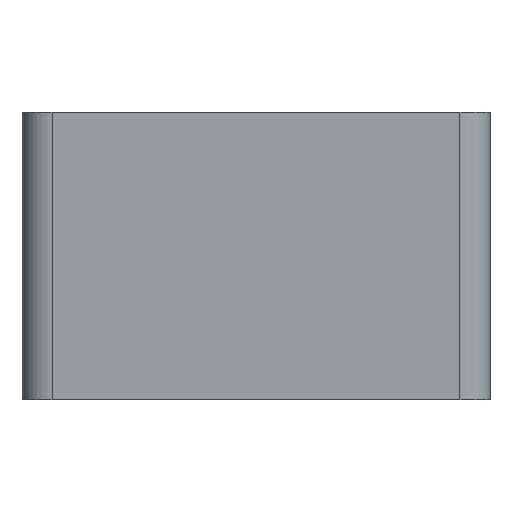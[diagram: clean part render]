
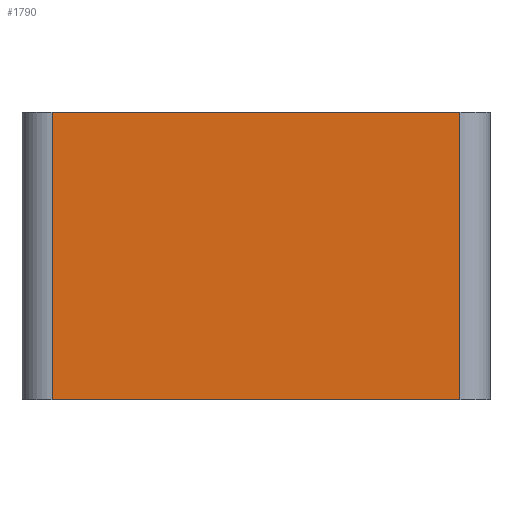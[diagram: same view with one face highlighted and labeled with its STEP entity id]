
A CAD part, front view. The second image highlights one B-rep face of the part: STEP entity #1790.
In plain terms, the highlighted planar face has unit normal (0, -1, 0).
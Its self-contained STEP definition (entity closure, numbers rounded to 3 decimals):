
#44 = PLANE('',#45);
#45 = AXIS2_PLACEMENT_3D('',#46,#47,#48);
#46 = CARTESIAN_POINT('',(-9.35,-9.35,22.));
#47 = DIRECTION('',(0.,0.,1.));
#48 = DIRECTION('',(1.,0.,0.));
#72 = CYLINDRICAL_SURFACE('',#73,1.2);
#73 = AXIS2_PLACEMENT_3D('',#74,#75,#76);
#74 = CARTESIAN_POINT('',(-8.15,-8.15,10.5));
#75 = DIRECTION('',(0.,0.,1.));
#76 = DIRECTION('',(-1.,-0.,0.));
#100 = PLANE('',#101);
#101 = AXIS2_PLACEMENT_3D('',#102,#103,#104);
#102 = CARTESIAN_POINT('',(-9.35,-9.35,10.5));
#103 = DIRECTION('',(0.,0.,1.));
#104 = DIRECTION('',(1.,0.,0.));
#249 = VERTEX_POINT('',#250);
#250 = CARTESIAN_POINT('',(-8.15,-9.35,22.));
#272 = EDGE_CURVE('',#249,#273,#275,.T.);
#273 = VERTEX_POINT('',#274);
#274 = CARTESIAN_POINT('',(8.15,-9.35,22.));
#275 = SURFACE_CURVE('',#276,(#280,#287),.PCURVE_S1.);
#276 = LINE('',#277,#278);
#277 = CARTESIAN_POINT('',(-9.35,-9.35,22.));
#278 = VECTOR('',#279,1.);
#279 = DIRECTION('',(1.,0.,0.));
#280 = PCURVE('',#44,#281);
#281 = DEFINITIONAL_REPRESENTATION('',(#282),#286);
#282 = LINE('',#283,#284);
#283 = CARTESIAN_POINT('',(0.,0.));
#284 = VECTOR('',#285,1.);
#285 = DIRECTION('',(1.,0.));
#286 = ( GEOMETRIC_REPRESENTATION_CONTEXT(2) 
PARAMETRIC_REPRESENTATION_CONTEXT() REPRESENTATION_CONTEXT('2D SPACE',''
  ) );
#287 = PCURVE('',#288,#293);
#288 = PLANE('',#289);
#289 = AXIS2_PLACEMENT_3D('',#290,#291,#292);
#290 = CARTESIAN_POINT('',(-9.35,-9.35,10.5));
#291 = DIRECTION('',(0.,1.,0.));
#292 = DIRECTION('',(0.,0.,1.));
#293 = DEFINITIONAL_REPRESENTATION('',(#294),#298);
#294 = LINE('',#295,#296);
#295 = CARTESIAN_POINT('',(11.5,0.));
#296 = VECTOR('',#297,1.);
#297 = DIRECTION('',(0.,1.));
#298 = ( GEOMETRIC_REPRESENTATION_CONTEXT(2) 
PARAMETRIC_REPRESENTATION_CONTEXT() REPRESENTATION_CONTEXT('2D SPACE',''
  ) );
#321 = CYLINDRICAL_SURFACE('',#322,1.2);
#322 = AXIS2_PLACEMENT_3D('',#323,#324,#325);
#323 = CARTESIAN_POINT('',(8.15,-8.15,10.5));
#324 = DIRECTION('',(0.,0.,1.));
#325 = DIRECTION('',(1.,0.,-0.));
#1003 = VERTEX_POINT('',#1004);
#1004 = CARTESIAN_POINT('',(-8.15,-9.35,10.5));
#1026 = EDGE_CURVE('',#1003,#1027,#1029,.T.);
#1027 = VERTEX_POINT('',#1028);
#1028 = CARTESIAN_POINT('',(8.15,-9.35,10.5));
#1029 = SURFACE_CURVE('',#1030,(#1034,#1041),.PCURVE_S1.);
#1030 = LINE('',#1031,#1032);
#1031 = CARTESIAN_POINT('',(-9.35,-9.35,10.5));
#1032 = VECTOR('',#1033,1.);
#1033 = DIRECTION('',(1.,0.,0.));
#1034 = PCURVE('',#100,#1035);
#1035 = DEFINITIONAL_REPRESENTATION('',(#1036),#1040);
#1036 = LINE('',#1037,#1038);
#1037 = CARTESIAN_POINT('',(0.,0.));
#1038 = VECTOR('',#1039,1.);
#1039 = DIRECTION('',(1.,0.));
#1040 = ( GEOMETRIC_REPRESENTATION_CONTEXT(2) 
PARAMETRIC_REPRESENTATION_CONTEXT() REPRESENTATION_CONTEXT('2D SPACE',''
  ) );
#1041 = PCURVE('',#288,#1042);
#1042 = DEFINITIONAL_REPRESENTATION('',(#1043),#1047);
#1043 = LINE('',#1044,#1045);
#1044 = CARTESIAN_POINT('',(0.,0.));
#1045 = VECTOR('',#1046,1.);
#1046 = DIRECTION('',(0.,1.));
#1047 = ( GEOMETRIC_REPRESENTATION_CONTEXT(2) 
PARAMETRIC_REPRESENTATION_CONTEXT() REPRESENTATION_CONTEXT('2D SPACE',''
  ) );
#1256 = EDGE_CURVE('',#1003,#249,#1257,.T.);
#1257 = SURFACE_CURVE('',#1258,(#1262,#1269),.PCURVE_S1.);
#1258 = LINE('',#1259,#1260);
#1259 = CARTESIAN_POINT('',(-8.15,-9.35,10.5));
#1260 = VECTOR('',#1261,1.);
#1261 = DIRECTION('',(0.,0.,1.));
#1262 = PCURVE('',#72,#1263);
#1263 = DEFINITIONAL_REPRESENTATION('',(#1264),#1268);
#1264 = LINE('',#1265,#1266);
#1265 = CARTESIAN_POINT('',(1.571,0.));
#1266 = VECTOR('',#1267,1.);
#1267 = DIRECTION('',(0.,1.));
#1268 = ( GEOMETRIC_REPRESENTATION_CONTEXT(2) 
PARAMETRIC_REPRESENTATION_CONTEXT() REPRESENTATION_CONTEXT('2D SPACE',''
  ) );
#1269 = PCURVE('',#288,#1270);
#1270 = DEFINITIONAL_REPRESENTATION('',(#1271),#1275);
#1271 = LINE('',#1272,#1273);
#1272 = CARTESIAN_POINT('',(0.,1.2));
#1273 = VECTOR('',#1274,1.);
#1274 = DIRECTION('',(1.,0.));
#1275 = ( GEOMETRIC_REPRESENTATION_CONTEXT(2) 
PARAMETRIC_REPRESENTATION_CONTEXT() REPRESENTATION_CONTEXT('2D SPACE',''
  ) );
#1768 = EDGE_CURVE('',#1027,#273,#1769,.T.);
#1769 = SURFACE_CURVE('',#1770,(#1774,#1781),.PCURVE_S1.);
#1770 = LINE('',#1771,#1772);
#1771 = CARTESIAN_POINT('',(8.15,-9.35,10.5));
#1772 = VECTOR('',#1773,1.);
#1773 = DIRECTION('',(0.,0.,1.));
#1774 = PCURVE('',#321,#1775);
#1775 = DEFINITIONAL_REPRESENTATION('',(#1776),#1780);
#1776 = LINE('',#1777,#1778);
#1777 = CARTESIAN_POINT('',(-1.571,0.));
#1778 = VECTOR('',#1779,1.);
#1779 = DIRECTION('',(-0.,1.));
#1780 = ( GEOMETRIC_REPRESENTATION_CONTEXT(2) 
PARAMETRIC_REPRESENTATION_CONTEXT() REPRESENTATION_CONTEXT('2D SPACE',''
  ) );
#1781 = PCURVE('',#288,#1782);
#1782 = DEFINITIONAL_REPRESENTATION('',(#1783),#1787);
#1783 = LINE('',#1784,#1785);
#1784 = CARTESIAN_POINT('',(0.,17.5));
#1785 = VECTOR('',#1786,1.);
#1786 = DIRECTION('',(1.,0.));
#1787 = ( GEOMETRIC_REPRESENTATION_CONTEXT(2) 
PARAMETRIC_REPRESENTATION_CONTEXT() REPRESENTATION_CONTEXT('2D SPACE',''
  ) );
#1790 = ADVANCED_FACE('',(#1791),#288,.F.);
#1791 = FACE_BOUND('',#1792,.F.);
#1792 = EDGE_LOOP('',(#1793,#1794,#1795,#1796));
#1793 = ORIENTED_EDGE('',*,*,#1026,.F.);
#1794 = ORIENTED_EDGE('',*,*,#1256,.T.);
#1795 = ORIENTED_EDGE('',*,*,#272,.T.);
#1796 = ORIENTED_EDGE('',*,*,#1768,.F.);
